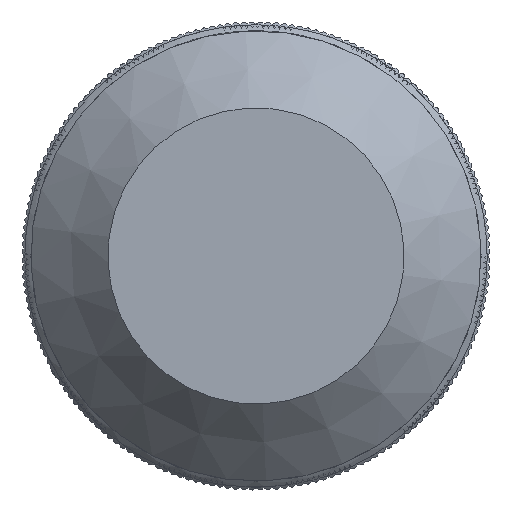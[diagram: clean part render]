
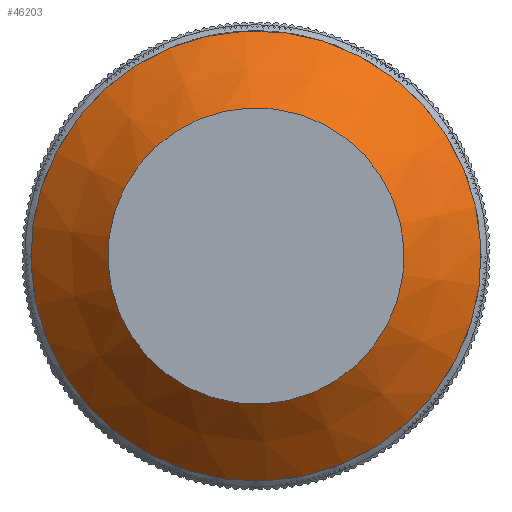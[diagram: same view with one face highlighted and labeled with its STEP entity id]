
A CAD part, left-side view. The second image highlights one B-rep face of the part: STEP entity #46203.
In plain terms, the highlighted conical face has half-angle 45 degrees and reference radius 31.5 mm.
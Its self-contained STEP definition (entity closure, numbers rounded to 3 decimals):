
#43872=CARTESIAN_POINT('',(-30.69,9.36,-5.439));
#43873=VERTEX_POINT('',#43872);
#43874=CARTESIAN_POINT('',(-30.69,-15.041,0.));
#43875=DIRECTION('',(1.,0.,0.));
#43876=DIRECTION('',(0.,0.976,-0.218));
#43877=AXIS2_PLACEMENT_3D('',#43874,#43875,#43876);
#43878=CIRCLE('',#43877,25.0);
#43879=EDGE_CURVE('',#43873,#43873,#43878,.T.);
#45396=CARTESIAN_POINT('',(-17.69,22.049,-8.268));
#45397=VERTEX_POINT('',#45396);
#45398=CARTESIAN_POINT('',(-17.69,-15.041,0.));
#45399=DIRECTION('',(1.0,0.,0.));
#45400=DIRECTION('',(0.,0.976,-0.218));
#45401=AXIS2_PLACEMENT_3D('',#45398,#45399,#45400);
#45402=CIRCLE('',#45401,38.);
#45403=EDGE_CURVE('',#45397,#45397,#45402,.T.);
#46192=CARTESIAN_POINT('',(-24.19,-15.041,0.));
#46193=DIRECTION('',(1.0,0.,0.));
#46194=DIRECTION('',(0.,0.976,-0.218));
#46195=AXIS2_PLACEMENT_3D('',#46192,#46193,#46194);
#46196=CONICAL_SURFACE('',#46195,31.5,45.);
#46197=ORIENTED_EDGE('',*,*,#45403,.F.);
#46198=EDGE_LOOP('',(#46197));
#46199=FACE_OUTER_BOUND('',#46198,.T.);
#46200=ORIENTED_EDGE('',*,*,#43879,.T.);
#46201=EDGE_LOOP('',(#46200));
#46202=FACE_BOUND('',#46201,.T.);
#46203=ADVANCED_FACE('',(#46199,#46202),#46196,.T.);
